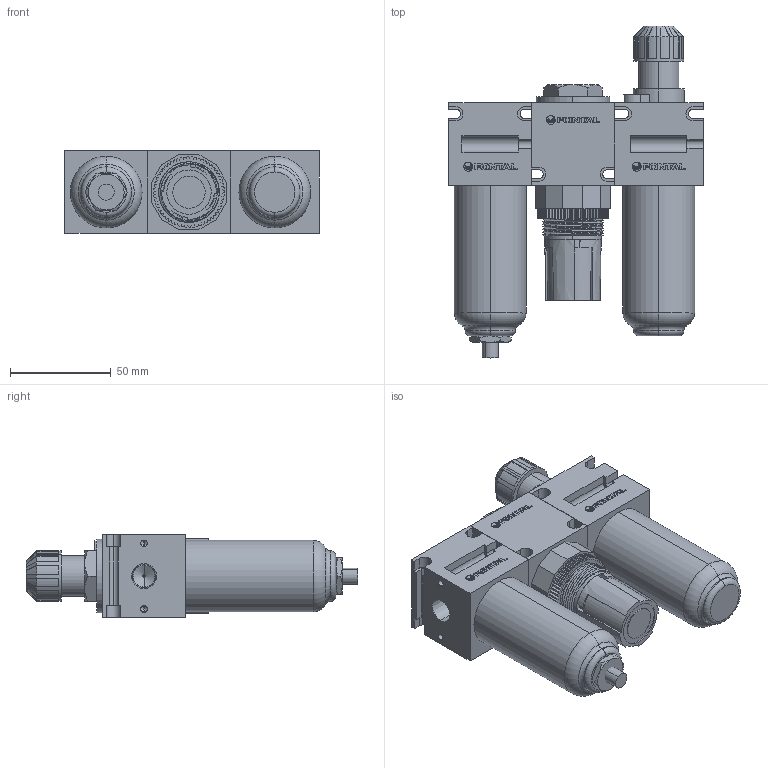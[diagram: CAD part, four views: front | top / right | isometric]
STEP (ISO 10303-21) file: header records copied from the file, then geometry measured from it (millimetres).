
FILE_DESCRIPTION (( 'STEP AP203' ), '1' );
FILE_NAME ('C45##-02#Y##.STEP', '2016-01-14T18:45:04', ( '' ), ( '' ), 'SwSTEP 2.0', 'SolidWorks 2014', '' );
FILE_SCHEMA (( 'CONFIG_CONTROL_DESIGN' ));
Length unit declared in the file: millimetre
Products named in the file (23): L45=44; R364-4; F45-02#Y#; L508-5; R45-2; F45-3; R364-上上部; R364-3; C45##-02#Y##; Y排水; R45#-02##; R364-2; L45-3; F45-2; R364-5; L45-02#; R45-1; R45-3; L系列旋轉部; F45-MARK; F45-1; L45-2; L45-1
Assembly tree (25 placements, depth 4):
  C45##-02#Y##
    F45-02#Y#
      F45-1
      F45-2
      F45-3
      Y排水
      F45-MARK
    R45#-02##
      R45-1
      R364-上上部
        R364-2
        R364-3
        R364-4
        R364-5
      R45-2
      R45-3
      F45-MARK
    L45-02#
      L系列旋轉部
        L45-2
        L45-1
        L508-5
      L45=44
        F45-2
        F45-MARK
        L45-3
Bounding box: 126 x 164.5 x 41.12 mm (x, y, z)
Volume: 388310 mm3; surface area: 83763.6 mm2
Topology: 37 solids, 37 shells, 949 faces, 2530 edges, 1660 vertices
Faces by surface type: plane 590, cylinder 260, cone 57, bspline 30, torus 12
Entity records: 27554 total; most frequent: CARTESIAN_POINT 6161, ORIENTED_EDGE 4008, DIRECTION 3879, EDGE_CURVE 2004, LINE 1377, VECTOR 1377, VERTEX_POINT 1320, AXIS2_PLACEMENT_3D 1251
